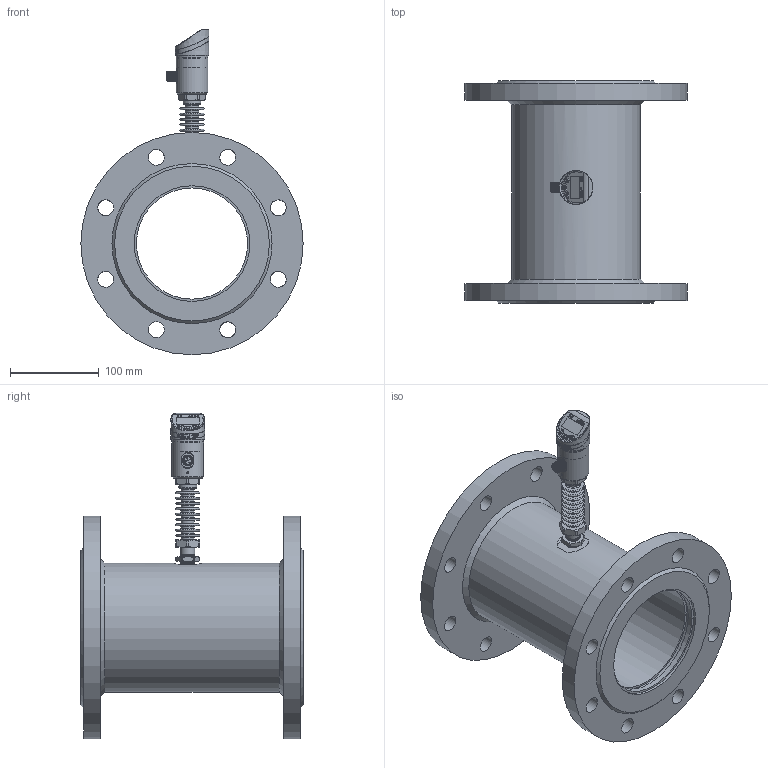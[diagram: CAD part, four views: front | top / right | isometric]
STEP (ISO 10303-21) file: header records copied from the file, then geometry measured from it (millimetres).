
FILE_DESCRIPTION( (''), '2;1');
FILE_NAME( 'QTKE_DN125_flange_high-temp.step', '2024-10-14T15:57:51+08:00', (''), (''), '', '', '');
FILE_SCHEMA (('AUTOMOTIVE_DESIGN { 1 0 10303 214 3 1 1 1 }'));
Length unit declared in the file: millimetre
Products named in the file (1): QTKE DN125_flange_high-temp
Bounding box: 250 x 250 x 366 mm (x, y, z)
Volume: 2305537.4 mm3; surface area: 416964.6 mm2
Topology: 5 solids, 5 shells, 1005 faces, 2579 edges, 1682 vertices
Faces by surface type: plane 407, cylinder 188, extrusion 160, cone 110, torus 60, bspline 59, sphere 21
Full cylindrical faces by diameter (mm): 1.689 x1, 2 x1, 2.7 x6, 3.5 x5, 12 x1, 13 x1, 15 x10, 15.9 x1, 16.5 x1, 18 x16, 20 x1, 23 x3, 26 x5, 31.7 x1, 32 x1, 34 x1, 34.2 x1, 35.5 x2, 125 x3, 130 x4, 145 x1, 250 x2
Entity records: 43445 total; most frequent: CARTESIAN_POINT 16343, ORIENTED_EDGE 4694, DIRECTION 4172, EDGE_CURVE 2347, VERTEX_POINT 1607, AXIS2_PLACEMENT_3D 1506, EDGE_LOOP 1302, VECTOR 1160
